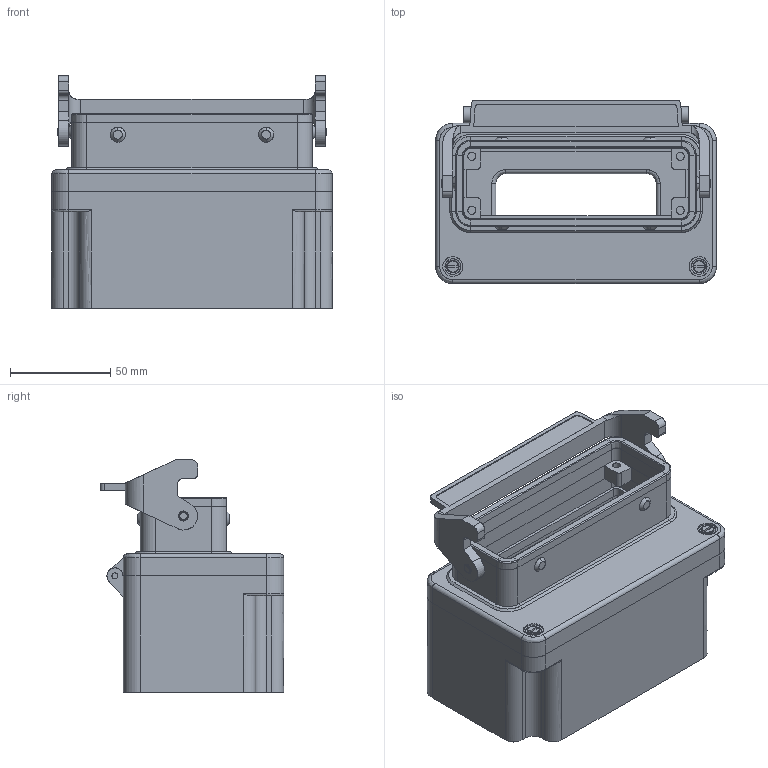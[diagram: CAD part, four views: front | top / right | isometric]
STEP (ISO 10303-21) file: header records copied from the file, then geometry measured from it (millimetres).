
FILE_DESCRIPTION( ( 'STEP AP214' ), '1' );
FILE_NAME( 'C:/Dokumente und Einstellungen/Administrator/Desktop/47 Kabelboxen/G1/9/gr_1_24e-b.stp', '2006-09-10T10:14:20', ( ' ' ), ( ' ' ), 'XStep 1.0', 'VISICAD', ' ' );
FILE_SCHEMA( ( 'automotive_design' ) );
Length unit declared in the file: millimetre
Products named in the file (861): 1; 2; 3; 4; 5; 6; 7; 8; 9; 10; 11; 12; 13; 14; 15; 16; 17; 18; 19; 20; 21; 22; 23; 24; 25; 26; 27; 28; 29; 30; 31; 32; 33; 34; 35; 36; 37; 38; 39; 40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
Bounding box: 140 x 91.5 x 115.9 mm (x, y, z)
Surface area: 129924.6 mm2 (no closed solid volume)
Topology: 0 solids, 861 shells, 861 faces, 4350 edges, 4350 vertices
Faces by surface type: plane 393, bspline 242, revolution 198, cylinder 28
Entity records: 96318 total; most frequent: CARTESIAN_POINT 44790, DIRECTION 6161, ORIENTED_EDGE 4350, EDGE_CURVE 4350, VERTEX_POINT 4350, LINE 2399, VECTOR 2399, AXIS2_PLACEMENT_3D 1782
